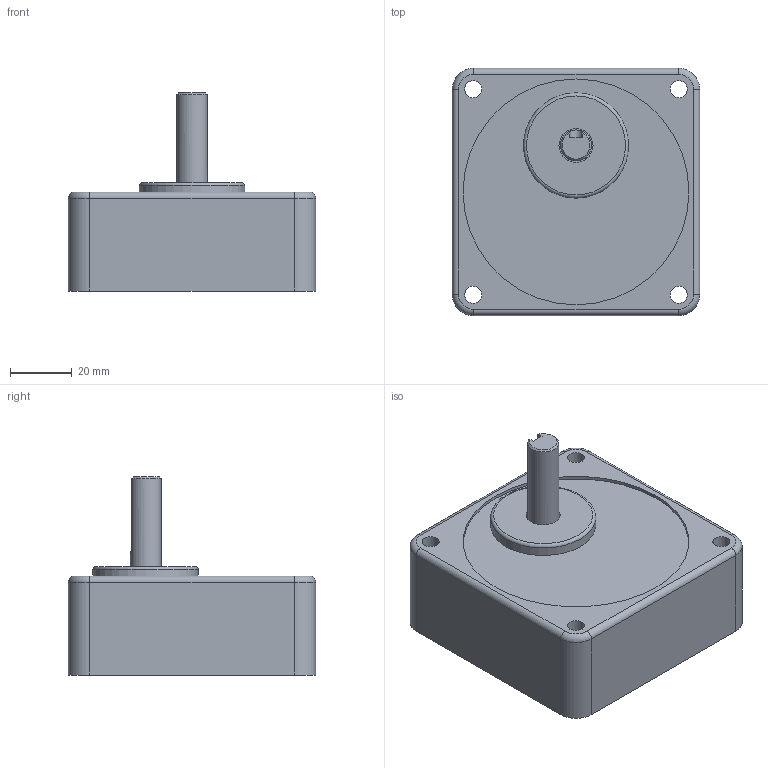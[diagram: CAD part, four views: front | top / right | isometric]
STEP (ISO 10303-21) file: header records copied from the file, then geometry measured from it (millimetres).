
FILE_DESCRIPTION (( 'STEP AP203' ), '1' );
FILE_NAME ('8GBK｡滷MH(3~18).STEP', '2022-09-20T02:37:16', ( '' ), ( '' ), 'SwSTEP 2.0', 'SolidWorks 2018', '' );
FILE_SCHEMA (( 'CONFIG_CONTROL_DESIGN' ));
Length unit declared in the file: millimetre
Products named in the file (2): 8GBK｡滷MH(3~18)
Bounding box: 80 x 80 x 64 mm (x, y, z)
Volume: 186783.7 mm3; surface area: 28008.8 mm2
Topology: 1 solids, 1 shells, 40 faces, 89 edges, 57 vertices
Faces by surface type: cylinder 19, plane 15, torus 5, cone 1
Full cylindrical faces by diameter (mm): 5.5 x4, 10 x1, 11 x1, 11.5 x1, 34 x1, 73 x1, 73.1 x1
Entity records: 1238 total; most frequent: CARTESIAN_POINT 206, DIRECTION 199, ORIENTED_EDGE 150, AXIS2_PLACEMENT_3D 85, EDGE_CURVE 75, EDGE_LOOP 65, VERTEX_POINT 54, FACE_OUTER_BOUND 51
